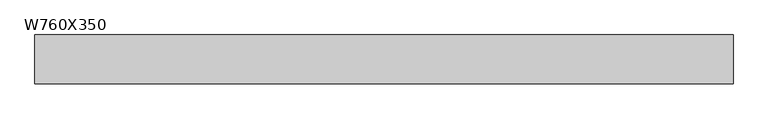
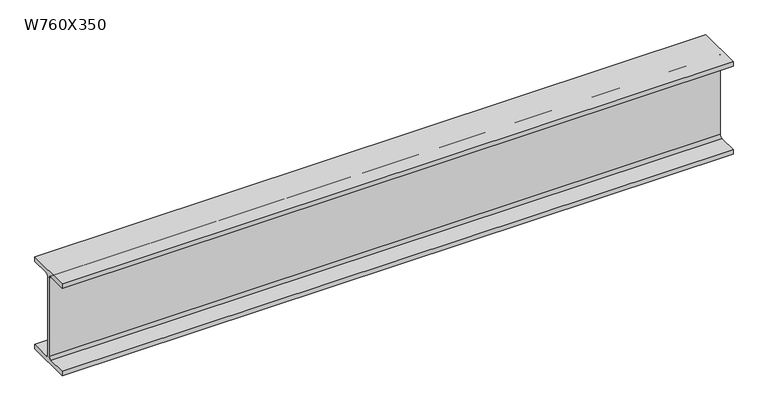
"""IFC4 building model written with IfcOpenShell, lengths in millimetres: beam geometry, M_W-Wide Flange : W760X350."""

from ifc_helpers import new_model, si_unit, point, frame, frame_2d, origin, place, context, project, spatial, polyline, circle_curve, trimmed, segment, composite_curve, outline, extrude, source, transform, mapped, element, save


def w760x350_2a258063(model_context):
    return source(origin(), model_context, "Body", "SweptSolid", [
        extrude(outline(composite_curve([segment(polyline([(192.0, -359.4), (192.0, -397.5), (-192.0, -397.5), (-192.0, -359.4), (-32.75, -359.4)]), True, "CONTINUOUS"), segment(trimmed(circle_curve(frame_2d((-32.75, -337.2)), 22.2), [point((-32.75, -359.4))], [point((-10.55, -337.2))], True, "CARTESIAN"), True, "CONTINUOUS"), segment(polyline([(-10.55, -337.2), (-10.55, 337.2)]), True, "CONTINUOUS"), segment(trimmed(circle_curve(frame_2d((-32.75, 337.2)), 22.2), [point((-10.55, 337.2))], [point((-32.75, 359.4))], True, "CARTESIAN"), True, "CONTINUOUS"), segment(polyline([(-32.75, 359.4), (-192.0, 359.4), (-192.0, 397.5), (192.0, 397.5), (192.0, 359.4), (32.75, 359.4)]), True, "CONTINUOUS"), segment(trimmed(circle_curve(frame_2d((32.75, 337.2)), 22.2), [point((32.75, 359.4))], [point((10.55, 337.2))], True, "CARTESIAN"), True, "CONTINUOUS"), segment(polyline([(10.55, 337.2), (10.55, -337.2)]), True, "CONTINUOUS"), segment(trimmed(circle_curve(frame_2d((32.75, -337.2)), 22.2), [point((10.55, -337.2))], [point((32.75, -359.4))], True, "CARTESIAN"), True, "CONTINUOUS"), segment(polyline([(32.75, -359.4), (192.0, -359.4)]), True, "CONTINUOUS")], self_intersect=False)), frame((-2735.3, 0.0, 0.0), z_axis=(1.0, 0.0, 0.0), x_axis=(0.0, 1.0, 0.0)), (0.0, 0.0, 1.0), 5470.6),
    ])


if __name__ == "__main__":
    model = new_model("IFC4")
    model_context = context("Model", 3, world=origin())
    ifc_project = project(units=[si_unit("LENGTHUNIT", "METRE", prefix="MILLI")], contexts=[model_context])
    site = spatial("IfcSite", under=ifc_project)
    building = spatial("IfcBuilding", under=site)
    placement = place(None, origin())
    w760x350_shape = w760x350_2a258063(model_context)
    element("IfcBeam", 1, ObjectType="M_W-Wide Flange : W760X350", at=placement, inside=building, context=model_context, shape_type="MappedRepresentation", body=[
        mapped(w760x350_shape, transform((0.0, 0.0, 0.0), x_axis=(1.0, 0.0, 0.0), y_axis=(0.0, 1.0, 0.0), z_axis=(0.0, 0.0, 1.0))),
    ])
    save(model, "model.ifc")
